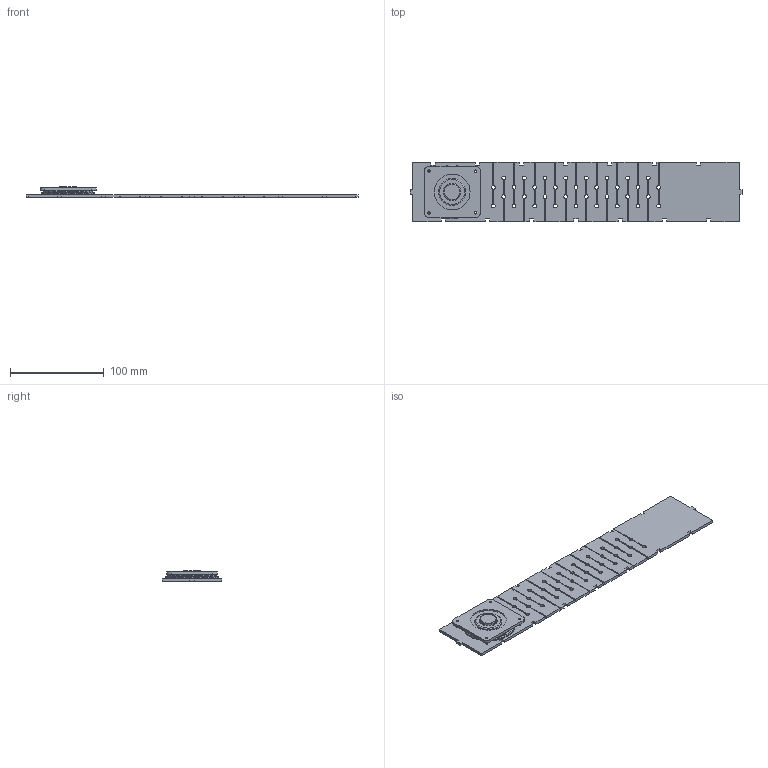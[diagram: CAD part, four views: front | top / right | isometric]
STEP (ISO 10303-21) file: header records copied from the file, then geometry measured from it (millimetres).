
FILE_DESCRIPTION(/* description */ (''),/* implementation_level */ '2;1');
FILE_NAME(/* name */ 'living-hinge-test2_(Assembly).step',/* time_stamp */ '2026-06-03T13:00:58+03:00',/* author */ (''),/* organization */ (''),/* preprocessor_version */ 'ST-DEVELOPER v20.1',/* originating_system */ 'Autodesk Translation Framework v15.8.0.0',/* authorisation */ '');
FILE_SCHEMA (('AUTOMOTIVE_DESIGN { 1 0 10303 214 3 1 1 }'));
Length unit declared in the file: millimetre
Products named in the file (4): 2026-05-31-17-06-48-304; 2026-05-03-19-12-15-775; 2026-05-31-17-10-04-049; 2026-05-24-17-13-53-846
Assembly tree (3 placements, depth 2):
  2026-05-31-17-06-48-304
    2026-05-03-19-12-15-775
    2026-05-31-17-10-04-049
    2026-05-24-17-13-53-846
Bounding box: 353.69 x 63.09 x 11.7 mm (x, y, z)
Volume: 76877.4 mm3; surface area: 61617.6 mm2
Topology: 3 solids, 3 shells, 327 faces, 952 edges, 634 vertices
Faces by surface type: plane 232, cylinder 89, torus 6
Full cylindrical faces by diameter (mm): 2.6 x8, 17.65 x1, 28.6 x1, 51.6 x1, 57 x1
Entity records: 11005 total; most frequent: CARTESIAN_POINT 1920, ORIENTED_EDGE 1904, DIRECTION 1814, EDGE_CURVE 952, LINE 758, VECTOR 758, VERTEX_POINT 634, AXIS2_PLACEMENT_3D 528
